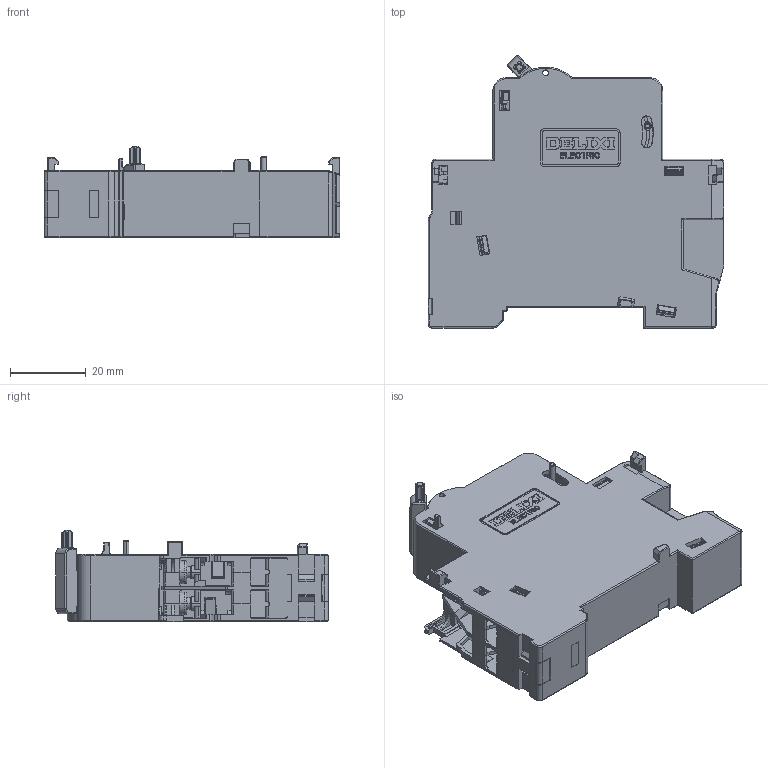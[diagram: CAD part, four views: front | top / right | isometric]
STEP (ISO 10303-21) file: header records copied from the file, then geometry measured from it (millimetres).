
FILE_DESCRIPTION((''),'2;1');
FILE_NAME('2297008200_SW0001','2023-11-07T',('dufeng.zhai'),(''),'PRO/ENGINEER BY PARAMETRIC TECHNOLOGY CORPORATION, 2015440','PRO/ENGINEER BY PARAMETRIC TECHNOLOGY CORPORATION, 2015440','');
FILE_SCHEMA(('CONFIG_CONTROL_DESIGN'));
Products named in the file (1): 2297008200_SW0001
Bounding box: 78 x 71.76 x 24.05 mm (x, y, z)
Volume: 56836.1 mm3; surface area: 34097.3 mm2
Topology: 1 solids, 1 shells, 2482 faces, 6966 edges, 4442 vertices
Faces by surface type: plane 1535, cylinder 646, cone 88, torus 62, bspline 57, sphere 51, extrusion 43
Entity records: 85182 total; most frequent: CARTESIAN_POINT 21314, ORIENTED_EDGE 13932, DIRECTION 12598, EDGE_CURVE 6966, VECTOR 5122, LINE 5079, VERTEX_POINT 4442, AXIS2_PLACEMENT_3D 3738
